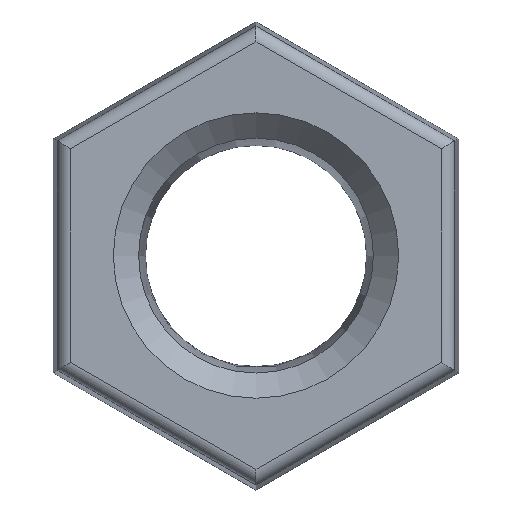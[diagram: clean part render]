
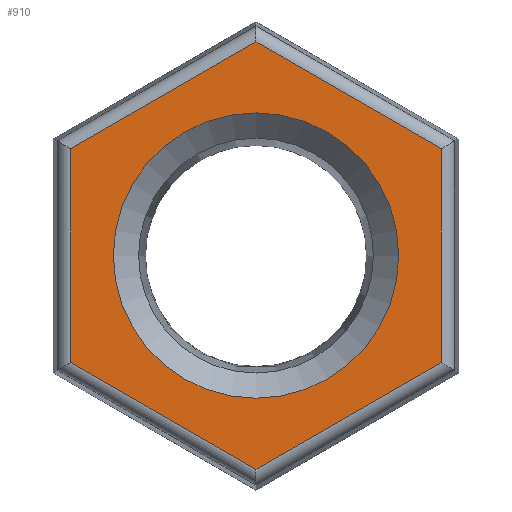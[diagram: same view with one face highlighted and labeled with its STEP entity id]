
A CAD part, top view. The second image highlights one B-rep face of the part: STEP entity #910.
In plain terms, the highlighted free-form (B-spline) face has degree [1, 1] with [2, 2] control points.
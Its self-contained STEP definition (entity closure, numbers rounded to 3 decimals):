
#840=CARTESIAN_POINT('',(10.5,0.,36.0));
#841=VERTEX_POINT('',#840);
#842=CARTESIAN_POINT('',(0.,0.,36.0));
#843=DIRECTION('',(0.0,0.0,1.0));
#844=DIRECTION('',(-1.0,0.0,0.0));
#845=AXIS2_PLACEMENT_3D('',#842,#843,#844);
#846=CIRCLE('',#845,10.5);
#847=EDGE_CURVE('',#841,#841,#846,.T.);
#852=CARTESIAN_POINT('',(-13.617,15.724,36.0));
#853=CARTESIAN_POINT('',(13.617,15.724,36.0));
#854=CARTESIAN_POINT('',(-13.617,-15.724,36.0));
#855=CARTESIAN_POINT('',(13.617,-15.724,36.0));
#856=B_SPLINE_SURFACE_WITH_KNOTS('',1,1,((#852,#854),(#853,#855)),.UNSPECIFIED.,.F.,.F.,.U.,(2,2),(2,2),(0.0,27.235),(0.0,31.448),.UNSPECIFIED.);
#857=CARTESIAN_POINT('',(13.617,-7.862,36.0));
#858=VERTEX_POINT('',#857);
#859=CARTESIAN_POINT('',(0.,-15.724,36.0));
#860=VERTEX_POINT('',#859);
#861=CARTESIAN_POINT('',(13.617,-7.862,36.0));
#862=DIRECTION('',(-0.866,-0.5,0.0));
#863=VECTOR('',#862,15.724);
#864=LINE('',#861,#863);
#865=EDGE_CURVE('',#858,#860,#864,.T.);
#866=ORIENTED_EDGE('',*,*,#865,.F.);
#867=CARTESIAN_POINT('',(13.617,7.862,36.0));
#868=VERTEX_POINT('',#867);
#869=CARTESIAN_POINT('',(13.617,7.862,36.0));
#870=DIRECTION('',(0.0,-1.0,0.0));
#871=VECTOR('',#870,15.724);
#872=LINE('',#869,#871);
#873=EDGE_CURVE('',#868,#858,#872,.T.);
#874=ORIENTED_EDGE('',*,*,#873,.F.);
#875=CARTESIAN_POINT('',(0.,15.724,36.0));
#876=VERTEX_POINT('',#875);
#877=CARTESIAN_POINT('',(0.,15.724,36.0));
#878=DIRECTION('',(0.866,-0.5,0.0));
#879=VECTOR('',#878,15.724);
#880=LINE('',#877,#879);
#881=EDGE_CURVE('',#876,#868,#880,.T.);
#882=ORIENTED_EDGE('',*,*,#881,.F.);
#883=CARTESIAN_POINT('',(-13.617,7.862,36.0));
#884=VERTEX_POINT('',#883);
#885=CARTESIAN_POINT('',(-13.617,7.862,36.0));
#886=DIRECTION('',(0.866,0.5,0.0));
#887=VECTOR('',#886,15.724);
#888=LINE('',#885,#887);
#889=EDGE_CURVE('',#884,#876,#888,.T.);
#890=ORIENTED_EDGE('',*,*,#889,.F.);
#891=CARTESIAN_POINT('',(-13.617,-7.862,36.0));
#892=VERTEX_POINT('',#891);
#893=CARTESIAN_POINT('',(-13.617,-7.862,36.0));
#894=DIRECTION('',(0.0,1.0,0.0));
#895=VECTOR('',#894,15.724);
#896=LINE('',#893,#895);
#897=EDGE_CURVE('',#892,#884,#896,.T.);
#898=ORIENTED_EDGE('',*,*,#897,.F.);
#899=CARTESIAN_POINT('',(0.,-15.724,36.0));
#900=DIRECTION('',(-0.866,0.5,0.0));
#901=VECTOR('',#900,15.724);
#902=LINE('',#899,#901);
#903=EDGE_CURVE('',#860,#892,#902,.T.);
#904=ORIENTED_EDGE('',*,*,#903,.F.);
#905=EDGE_LOOP('',(#866,#874,#882,#890,#898,#904));
#906=FACE_OUTER_BOUND('',#905,.T.);
#907=ORIENTED_EDGE('',*,*,#847,.F.);
#908=EDGE_LOOP('',(#907));
#909=FACE_BOUND('',#908,.T.);
#910=ADVANCED_FACE('',(#906,#909),#856,.F.);
